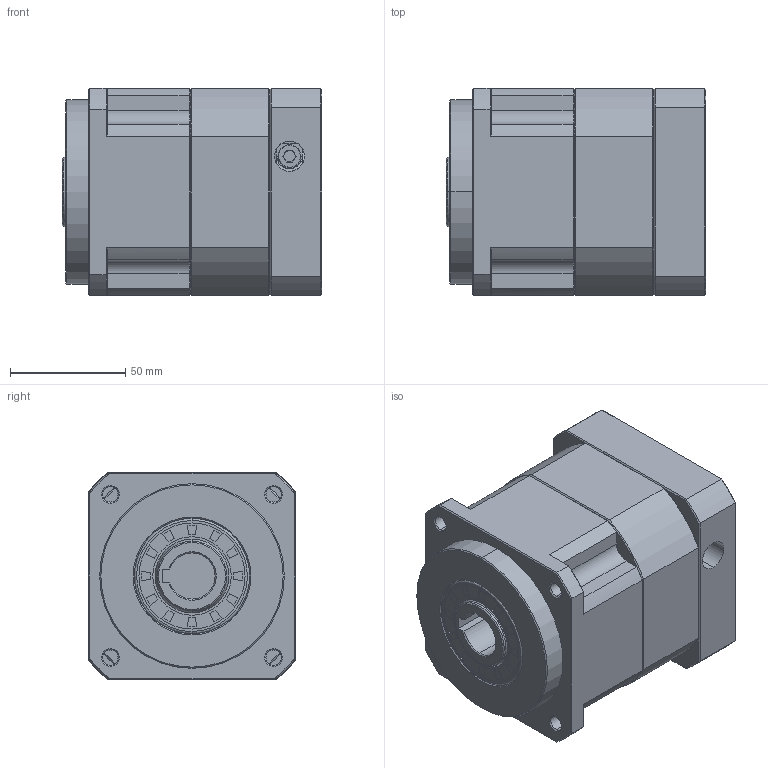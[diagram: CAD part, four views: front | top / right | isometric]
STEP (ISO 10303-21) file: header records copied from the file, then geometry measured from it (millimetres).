
FILE_DESCRIPTION (( 'STEP AP214' ), '1' );
FILE_NAME ('ZPB090-K20-L1-P1-14-50-70-M4.step', '2024-06-07T18:23:36', ( 'Windows 蚚誧' ), ( 'Organization' ), 'SwSTEP 2.0', 'SolidWorks 2016', '' );
FILE_SCHEMA (( 'AUTOMOTIVE_DESIGN' ));
Length unit declared in the file: millimetre
Products named in the file (1): ZPB090-K20-L1-P1-14-50-70-M4
Bounding box: 112.5 x 90 x 90 mm (x, y, z)
Surface area: 72485.8 mm2 (no closed solid volume)
Topology: 0 solids, 34 shells, 1795 faces, 4789 edges, 3060 vertices
Faces by surface type: plane 929, bspline 383, cone 270, cylinder 213
Entity records: 86662 total; most frequent: CARTESIAN_POINT 40175, ORIENTED_EDGE 9558, DIRECTION 7354, EDGE_CURVE 4789, LINE 3178, VECTOR 3178, VERTEX_POINT 3060, AXIS2_PLACEMENT_3D 2088
